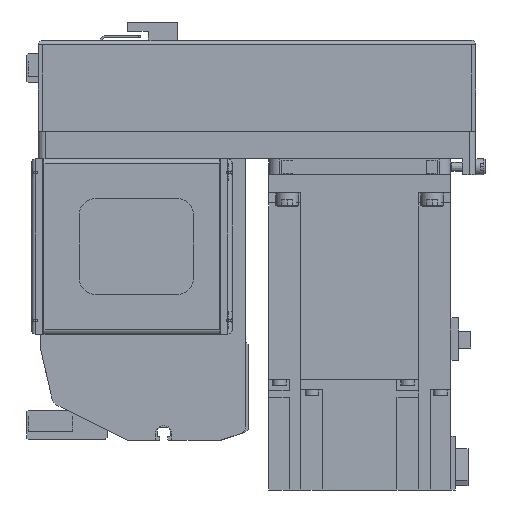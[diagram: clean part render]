
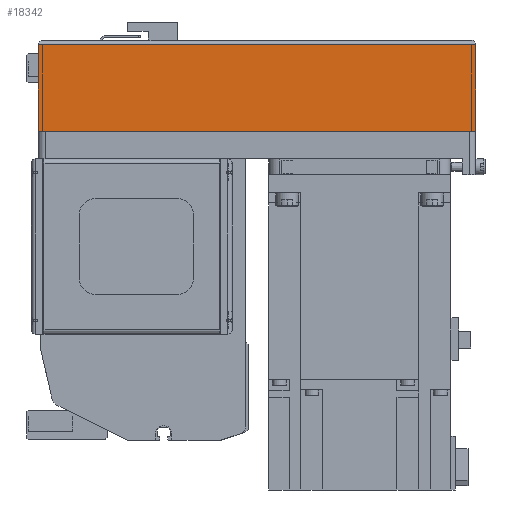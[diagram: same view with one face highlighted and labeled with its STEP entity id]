
A CAD part, left-side view. The second image highlights one B-rep face of the part: STEP entity #18342.
In plain terms, the highlighted planar face has unit normal (-1, 0, 0) as drawn and (0, -1, 0) by its records, which use the part's own axes.
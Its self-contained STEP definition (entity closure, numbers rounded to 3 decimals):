
#2868=ORIENTED_EDGE('',*,*,#7405,.F.);
#2869=ORIENTED_EDGE('',*,*,#7389,.F.);
#2870=ORIENTED_EDGE('',*,*,#7382,.T.);
#2871=ORIENTED_EDGE('',*,*,#7452,.T.);
#7382=EDGE_CURVE('',#9825,#9824,#11704,.T.);
#7389=EDGE_CURVE('',#9825,#9831,#11711,.T.);
#7405=EDGE_CURVE('',#9831,#9845,#11727,.T.);
#7452=EDGE_CURVE('',#9824,#9845,#11748,.T.);
#9824=VERTEX_POINT('',#28157);
#9825=VERTEX_POINT('',#28159);
#9831=VERTEX_POINT('',#28174);
#9845=VERTEX_POINT('',#28207);
#11704=LINE('',#28158,#13370);
#11711=LINE('',#28173,#13377);
#11727=LINE('',#28206,#13393);
#11748=LINE('',#28287,#13414);
#13370=VECTOR('',#22528,1000.);
#13377=VECTOR('',#22539,1000.);
#13393=VECTOR('',#22561,1000.);
#13414=VECTOR('',#22670,1000.);
#14898=EDGE_LOOP('',(#2868,#2869,#2870,#2871));
#16330=FACE_BOUND('',#14898,.T.);
#17593=PLANE('',#19669);
#18342=ADVANCED_FACE('',(#16330),#17593,.T.);
#19669=AXIS2_PLACEMENT_3D('',#28288,#22671,#22672);
#22528=DIRECTION('',(0.,0.,-1.));
#22539=DIRECTION('',(1.,0.,0.));
#22561=DIRECTION('',(0.,0.,-1.));
#22670=DIRECTION('',(1.,0.,0.));
#22671=DIRECTION('',(0.,-1.,0.));
#22672=DIRECTION('',(0.,0.,-1.));
#28157=CARTESIAN_POINT('',(-192.,-40.,-50.));
#28158=CARTESIAN_POINT('',(-192.,-40.,-12.1));
#28159=CARTESIAN_POINT('',(-192.,-40.,-12.1));
#28173=CARTESIAN_POINT('',(-192.,-40.,-12.1));
#28174=CARTESIAN_POINT('',(0.,-40.,-12.1));
#28206=CARTESIAN_POINT('',(0.,-40.,-12.1));
#28207=CARTESIAN_POINT('',(0.,-40.,-50.));
#28287=CARTESIAN_POINT('',(-192.,-40.,-50.));
#28288=CARTESIAN_POINT('',(-192.,-40.,-12.1));
